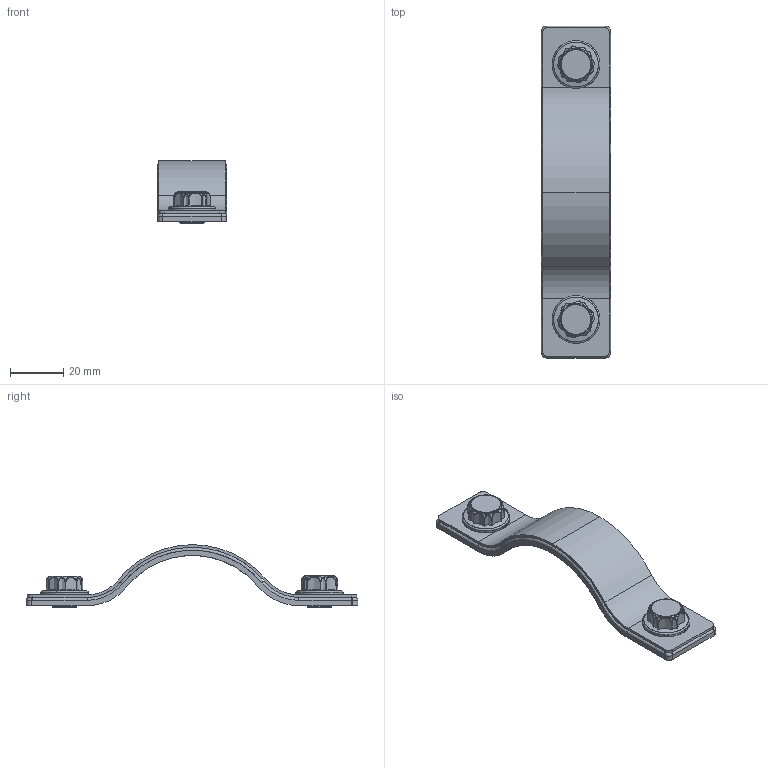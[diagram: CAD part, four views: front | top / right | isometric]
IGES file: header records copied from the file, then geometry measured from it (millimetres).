
Start section: C
Global section: file name: 8330-124.igs; native system: By Siemens PLM Incorporated; preprocessor: XPlus GENERIC/IGES 16.0.42; author: Author; organization: Title; date: 20220504.132226; units: millimetre
Bounding box: 26 x 125 x 23.62 mm (x, y, z)
Surface area: 19060.5 mm2 (no closed solid volume)
Topology: 0 solids, 0 shells, 385 faces, 2136 edges, 2088 vertices
Faces by surface type: bspline 385
